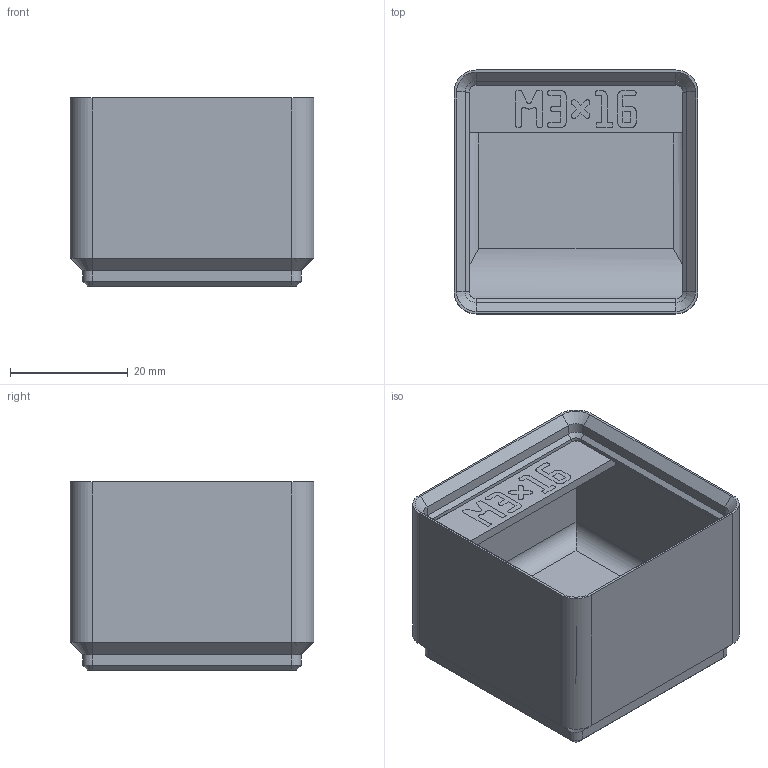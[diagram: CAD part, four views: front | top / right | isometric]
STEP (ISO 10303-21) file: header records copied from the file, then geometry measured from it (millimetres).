
FILE_DESCRIPTION(('Open CASCADE Model'),'2;1');
FILE_NAME('bin_M3_16','2026-11-03T10:52:18',('Author'),('Open CASCADE'), 'Open CASCADE STEP processor 8.0','build123d','Unknown');
FILE_SCHEMA(('AUTOMOTIVE_DESIGN { 1 0 10303 214 1 1 1 1 }'));
Length unit declared in the file: millimetre
Products named in the file (3): bin_M3_16; M3_16_body; M3_16_label
Assembly tree (2 placements, depth 2):
  bin_M3_16
    M3_16_body
    M3_16_label
Bounding box: 41.5 x 41.5 x 32 mm (x, y, z)
Volume: 16774.6 mm3; surface area: 12710.9 mm2
Topology: 6 solids, 6 shells, 1135 faces, 3286 edges, 2170 vertices
Faces by surface type: plane 1095, cylinder 20, cone 20
Entity records: 79349 total; most frequent: CARTESIAN_POINT 13728, DIRECTION 11943, LINE 9558, VECTOR 9558, ORIENTED_EDGE 6572, PCURVE 6572, DEFINITIONAL_REPRESENTATION 6572, EDGE_CURVE 3286
